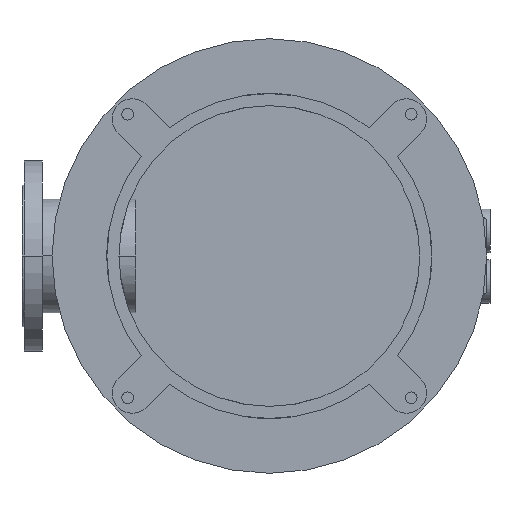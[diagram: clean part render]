
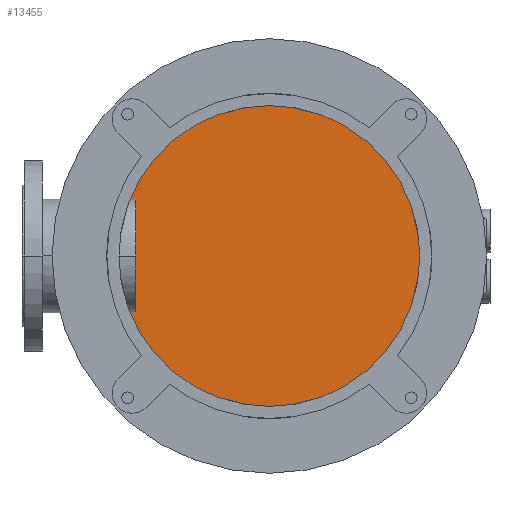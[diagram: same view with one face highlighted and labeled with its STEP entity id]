
A CAD part, front view. The second image highlights one B-rep face of the part: STEP entity #13455.
In plain terms, the highlighted planar face has unit normal (0, -1, 0).
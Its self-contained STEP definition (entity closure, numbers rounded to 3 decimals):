
#2800=CARTESIAN_POINT('',(0.,668.,0.));
#2801=DIRECTION('',(0.,-1.,0.));
#2802=DIRECTION('',(0.,0.,1.));
#2803=AXIS2_PLACEMENT_3D('',#2800,#2801,#2802);
#2969=CARTESIAN_POINT('',(0.,668.,0.));
#2970=DIRECTION('',(0.,-1.,0.));
#2971=DIRECTION('',(0.,0.,-1.));
#2972=AXIS2_PLACEMENT_3D('',#2969,#2970,#2971);
#8606=CARTESIAN_POINT('',(0.,668.,240.));
#8607=CARTESIAN_POINT('',(0.,668.,-240.));
#8608=VERTEX_POINT('',#8606);
#8609=VERTEX_POINT('',#8607);
#13445=CARTESIAN_POINT('',(0.,668.,0.));
#13446=DIRECTION('',(0.,1.,0.));
#13447=DIRECTION('',(0.,0.,-1.));
#13448=AXIS2_PLACEMENT_3D('',#13445,#13446,#13447);
#13449=PLANE('',#13448);
#13450=ORIENTED_EDGE('',*,*,#13423,.F.);
#13452=ORIENTED_EDGE('',*,*,#13451,.F.);
#13453=EDGE_LOOP('',(#13450,#13452));
#13454=FACE_OUTER_BOUND('',#13453,.F.);
#13455=ADVANCED_FACE('',(#13454),#13449,.F.);
#2804=CIRCLE('',#2803,240.);
#2973=CIRCLE('',#2972,240.);
#13423=EDGE_CURVE('',#8608,#8609,#2804,.T.);
#13451=EDGE_CURVE('',#8609,#8608,#2973,.T.);
